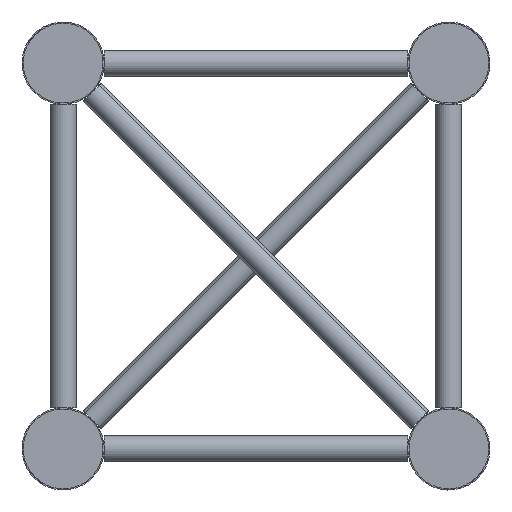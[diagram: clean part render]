
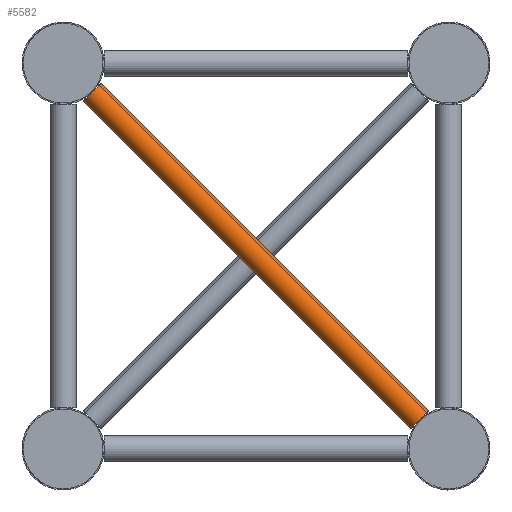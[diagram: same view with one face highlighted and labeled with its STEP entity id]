
A CAD part, left-side view. The second image highlights one B-rep face of the part: STEP entity #5582.
In plain terms, the highlighted cylindrical face has radius 8 mm (diameter 16 mm), a full revolution.
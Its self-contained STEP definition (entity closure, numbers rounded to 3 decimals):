
#283=B_SPLINE_CURVE_WITH_KNOTS('',3,(#8620,#8621,#8622,#8623,#8624,#8625),
 .UNSPECIFIED.,.F.,.F.,(4,2,4),(1.187,1.214,1.242),
 .UNSPECIFIED.);
#285=B_SPLINE_CURVE_WITH_KNOTS('',3,(#8638,#8639,#8640,#8641,#8642,#8643),
 .UNSPECIFIED.,.F.,.F.,(4,2,4),(3.616,3.643,3.67),
 .UNSPECIFIED.);
#288=B_SPLINE_CURVE_WITH_KNOTS('',3,(#8763,#8764,#8765,#8766,#8767,#8768),
 .UNSPECIFIED.,.F.,.F.,(4,2,4),(3.616,3.643,3.67),
 .UNSPECIFIED.);
#289=B_SPLINE_CURVE_WITH_KNOTS('',3,(#8772,#8773,#8774,#8775,#8776,#8777),
 .UNSPECIFIED.,.F.,.F.,(4,2,4),(1.187,1.214,1.242),
 .UNSPECIFIED.);
#696=CYLINDRICAL_SURFACE('',#6039,8.);
#838=FACE_BOUND('',#1582,.T.);
#1109=FACE_OUTER_BOUND('',#1581,.T.);
#1581=EDGE_LOOP('',(#3480,#3481,#3482,#3483));
#1582=EDGE_LOOP('',(#3484,#3485,#3486,#3487));
#2245=CIRCLE('',#6040,8.);
#2246=CIRCLE('',#6041,8.);
#2247=CIRCLE('',#6042,8.);
#2248=CIRCLE('',#6043,8.);
#2380=VERTEX_POINT('',#8617);
#2381=VERTEX_POINT('',#8619);
#2384=VERTEX_POINT('',#8635);
#2385=VERTEX_POINT('',#8637);
#2426=VERTEX_POINT('',#8761);
#2427=VERTEX_POINT('',#8762);
#2428=VERTEX_POINT('',#8769);
#2429=VERTEX_POINT('',#8771);
#2778=EDGE_CURVE('',#2381,#2380,#283,.T.);
#2782=EDGE_CURVE('',#2385,#2384,#285,.T.);
#2827=EDGE_CURVE('',#2380,#2385,#2245,.T.);
#2828=EDGE_CURVE('',#2384,#2381,#2246,.T.);
#2829=EDGE_CURVE('',#2426,#2427,#288,.T.);
#2830=EDGE_CURVE('',#2427,#2428,#2247,.T.);
#2831=EDGE_CURVE('',#2428,#2429,#289,.T.);
#2832=EDGE_CURVE('',#2429,#2426,#2248,.T.);
#3480=ORIENTED_EDGE('',*,*,#2778,.T.);
#3481=ORIENTED_EDGE('',*,*,#2827,.T.);
#3482=ORIENTED_EDGE('',*,*,#2782,.T.);
#3483=ORIENTED_EDGE('',*,*,#2828,.T.);
#3484=ORIENTED_EDGE('',*,*,#2829,.T.);
#3485=ORIENTED_EDGE('',*,*,#2830,.T.);
#3486=ORIENTED_EDGE('',*,*,#2831,.T.);
#3487=ORIENTED_EDGE('',*,*,#2832,.T.);
#5582=ADVANCED_FACE('',(#1109,#838),#696,.T.);
#6039=AXIS2_PLACEMENT_3D('',#8758,#6915,#6916);
#6040=AXIS2_PLACEMENT_3D('',#8759,#6917,#6918);
#6041=AXIS2_PLACEMENT_3D('',#8760,#6919,#6920);
#6042=AXIS2_PLACEMENT_3D('',#8770,#6921,#6922);
#6043=AXIS2_PLACEMENT_3D('',#8778,#6923,#6924);
#6915=DIRECTION('center_axis',(0.,0.707,
0.707));
#6916=DIRECTION('ref_axis',(0.,0.707,-0.707));
#6917=DIRECTION('center_axis',(0.,0.707,
0.707));
#6918=DIRECTION('ref_axis',(0.,0.707,-0.707));
#6919=DIRECTION('center_axis',(0.,0.707,
0.707));
#6920=DIRECTION('ref_axis',(0.,0.707,-0.707));
#6921=DIRECTION('center_axis',(0.,-0.707,
-0.707));
#6922=DIRECTION('ref_axis',(0.,0.707,-0.707));
#6923=DIRECTION('center_axis',(0.,-0.707,
-0.707));
#6924=DIRECTION('ref_axis',(0.,0.707,-0.707));
#8617=CARTESIAN_POINT('',(52.005,17.836,-220.776));
#8619=CARTESIAN_POINT('',(52.005,18.224,-221.164));
#8620=CARTESIAN_POINT('Ctrl Pts',(52.005,18.224,-221.164));
#8621=CARTESIAN_POINT('Ctrl Pts',(52.002,18.16,-221.098));
#8622=CARTESIAN_POINT('Ctrl Pts',(52.,18.096,-221.033));
#8623=CARTESIAN_POINT('Ctrl Pts',(52.,17.967,-220.904));
#8624=CARTESIAN_POINT('Ctrl Pts',(52.002,17.902,-220.84));
#8625=CARTESIAN_POINT('Ctrl Pts',(52.005,17.836,-220.776));
#8635=CARTESIAN_POINT('',(67.995,18.224,-221.164));
#8637=CARTESIAN_POINT('',(67.995,17.836,-220.776));
#8638=CARTESIAN_POINT('Ctrl Pts',(67.995,17.836,-220.776));
#8639=CARTESIAN_POINT('Ctrl Pts',(67.998,17.902,-220.84));
#8640=CARTESIAN_POINT('Ctrl Pts',(68.,17.967,-220.904));
#8641=CARTESIAN_POINT('Ctrl Pts',(68.,18.096,-221.033));
#8642=CARTESIAN_POINT('Ctrl Pts',(67.998,18.16,-221.098));
#8643=CARTESIAN_POINT('Ctrl Pts',(67.995,18.224,-221.164));
#8758=CARTESIAN_POINT('Origin',(60.,119.5,-119.5));
#8759=CARTESIAN_POINT('Origin',(60.,18.03,-220.97));
#8760=CARTESIAN_POINT('Origin',(60.,18.03,-220.97));
#8761=CARTESIAN_POINT('',(52.005,220.776,-17.836));
#8762=CARTESIAN_POINT('',(52.005,221.164,-18.224));
#8763=CARTESIAN_POINT('Ctrl Pts',(52.005,220.776,-17.836));
#8764=CARTESIAN_POINT('Ctrl Pts',(52.002,220.84,-17.902));
#8765=CARTESIAN_POINT('Ctrl Pts',(52.,220.904,-17.967));
#8766=CARTESIAN_POINT('Ctrl Pts',(52.,221.033,-18.096));
#8767=CARTESIAN_POINT('Ctrl Pts',(52.002,221.098,-18.16));
#8768=CARTESIAN_POINT('Ctrl Pts',(52.005,221.164,-18.224));
#8769=CARTESIAN_POINT('',(67.995,221.164,-18.224));
#8770=CARTESIAN_POINT('Origin',(60.,220.97,-18.03));
#8771=CARTESIAN_POINT('',(67.995,220.776,-17.836));
#8772=CARTESIAN_POINT('Ctrl Pts',(67.995,221.164,-18.224));
#8773=CARTESIAN_POINT('Ctrl Pts',(67.998,221.098,-18.16));
#8774=CARTESIAN_POINT('Ctrl Pts',(68.,221.033,-18.096));
#8775=CARTESIAN_POINT('Ctrl Pts',(68.,220.904,-17.967));
#8776=CARTESIAN_POINT('Ctrl Pts',(67.998,220.84,-17.902));
#8777=CARTESIAN_POINT('Ctrl Pts',(67.995,220.776,-17.836));
#8778=CARTESIAN_POINT('Origin',(60.,220.97,-18.03));
